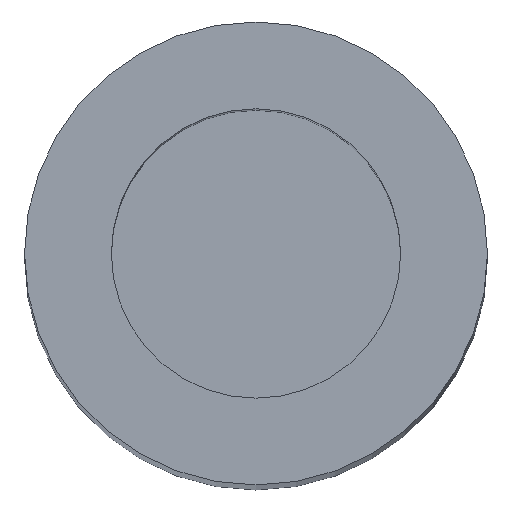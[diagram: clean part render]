
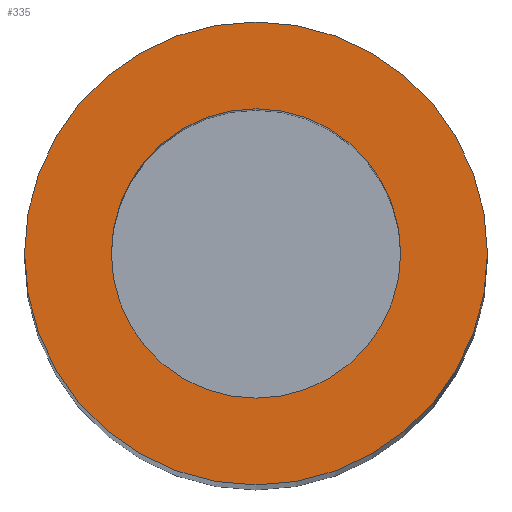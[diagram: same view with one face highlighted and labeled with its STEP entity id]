
A CAD part, top view. The second image highlights one B-rep face of the part: STEP entity #335.
In plain terms, the highlighted planar face has unit normal (0, 0, 1).
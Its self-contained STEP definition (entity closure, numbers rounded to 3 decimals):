
#3 = DIRECTION ( 'NONE',  ( 0., 0., 1. ) ) ;
#5 = ORIENTED_EDGE ( 'NONE', *, *, #145, .T. ) ;
#9 = AXIS2_PLACEMENT_3D ( 'NONE', #89, #270, #122 ) ;
#16 = ORIENTED_EDGE ( 'NONE', *, *, #70, .F. ) ;
#30 = CIRCLE ( 'NONE', #322, 1.25 ) ;
#34 = FACE_OUTER_BOUND ( 'NONE', #123, .T. ) ;
#35 = AXIS2_PLACEMENT_3D ( 'NONE', #158, #3, #193 ) ;
#39 = DIRECTION ( 'NONE',  ( 0., 0., 1. ) ) ;
#43 = VERTEX_POINT ( 'NONE', #90 ) ;
#51 = ORIENTED_EDGE ( 'NONE', *, *, #68, .F. ) ;
#56 = CARTESIAN_POINT ( 'NONE',  ( 1.25, 0., 0. ) ) ;
#68 = EDGE_CURVE ( 'NONE', #43, #202, #210, .T. ) ;
#70 = EDGE_CURVE ( 'NONE', #202, #43, #30, .T. ) ;
#76 = DIRECTION ( 'NONE',  ( 0., 0., 1. ) ) ;
#79 = DIRECTION ( 'NONE',  ( 0., 0., 1. ) ) ;
#89 = CARTESIAN_POINT ( 'NONE',  ( 0., 0., 0. ) ) ;
#90 = CARTESIAN_POINT ( 'NONE',  ( 1.25, 0., 0. ) ) ;
#93 = VERTEX_POINT ( 'NONE', #137 ) ;
#111 = AXIS2_PLACEMENT_3D ( 'NONE', #56, #76, #262 ) ;
#112 = AXIS2_PLACEMENT_3D ( 'NONE', #198, #39, #217 ) ;
#122 = DIRECTION ( 'NONE',  ( 1., 0., 0. ) ) ;
#123 = EDGE_LOOP ( 'NONE', ( #5, #229 ) ) ;
#125 = CARTESIAN_POINT ( 'NONE',  ( -1.25, 0., 0. ) ) ;
#137 = CARTESIAN_POINT ( 'NONE',  ( -2., 0., 0. ) ) ;
#143 = EDGE_LOOP ( 'NONE', ( #51, #16 ) ) ;
#145 = EDGE_CURVE ( 'NONE', #239, #93, #300, .T. ) ;
#158 = CARTESIAN_POINT ( 'NONE',  ( 0., 0., 0. ) ) ;
#193 = DIRECTION ( 'NONE',  ( 1., 0., 0. ) ) ;
#198 = CARTESIAN_POINT ( 'NONE',  ( 0., 0., 0. ) ) ;
#202 = VERTEX_POINT ( 'NONE', #125 ) ;
#206 = PLANE ( 'NONE',  #111 ) ;
#210 = CIRCLE ( 'NONE', #9, 1.25 ) ;
#217 = DIRECTION ( 'NONE',  ( 1., 0., 0. ) ) ;
#229 = ORIENTED_EDGE ( 'NONE', *, *, #313, .T. ) ;
#234 = CIRCLE ( 'NONE', #35, 2. ) ;
#238 = CARTESIAN_POINT ( 'NONE',  ( 0., 0., 0. ) ) ;
#239 = VERTEX_POINT ( 'NONE', #331 ) ;
#262 = DIRECTION ( 'NONE',  ( 1., 0., 0. ) ) ;
#264 = DIRECTION ( 'NONE',  ( 1., 0., 0. ) ) ;
#270 = DIRECTION ( 'NONE',  ( 0., 0., 1. ) ) ;
#300 = CIRCLE ( 'NONE', #112, 2. ) ;
#313 = EDGE_CURVE ( 'NONE', #93, #239, #234, .T. ) ;
#319 = FACE_BOUND ( 'NONE', #143, .T. ) ;
#322 = AXIS2_PLACEMENT_3D ( 'NONE', #238, #79, #264 ) ;
#331 = CARTESIAN_POINT ( 'NONE',  ( 2., 0., 0. ) ) ;
#335 = ADVANCED_FACE ( 'NONE', ( #34, #319 ), #206, .T. ) ;
